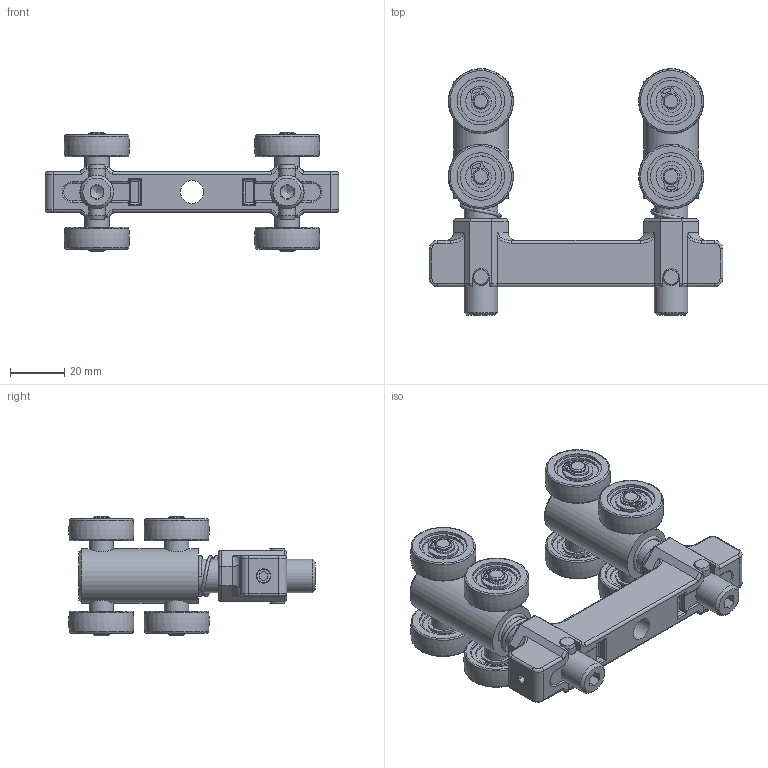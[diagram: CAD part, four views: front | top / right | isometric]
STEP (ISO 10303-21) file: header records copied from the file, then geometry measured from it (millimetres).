
FILE_DESCRIPTION (( 'STEP AP214' ), '1' );
FILE_NAME ('800.019.108.STEP', '2014-11-04T16:45:13', ( '' ), ( '' ), 'SwSTEP 2.0', 'SolidWorks 2012', '' );
FILE_SCHEMA (( 'AUTOMOTIVE_DESIGN' ));
Length unit declared in the file: millimetre
Products named in the file (11): ISO 4027 - M6 x 16-S_ISO 4027 - M6 x 16-S; Circlip DIN 471 - 6 x 0.7_Circlip DIN 471 - 6 x 0.7; 800.019.117; 800.019.116_Default<A macchina>; Parallel Pin ISO 8734 - 6 x 20 - A - St_Parallel Pin ISO 8734 - 6 x 20 - A - St; 800.019.120; 800.019.119; 800.019.121; 800.019.124; 800.019.113; 800.019.108
Assembly tree (45 placements, depth 2):
  800.019.108
    800.019.113
    800.019.124  x2
    800.019.121  x4
    800.019.119  x2
    800.019.120  x8
    Parallel Pin ISO 8734 - 6 x 20 - A - St_Parallel Pin ISO 8734 - 6 x 20 - A - St  x2
    800.019.116_Default<A macchina>  x8
    800.019.117  x8
    Circlip DIN 471 - 6 x 0.7_Circlip DIN 471 - 6 x 0.7  x8
    ISO 4027 - M6 x 16-S_ISO 4027 - M6 x 16-S  x2
Bounding box: 108 x 90.69 x 43.8 mm (x, y, z)
Volume: 88488.2 mm3; surface area: 52548.1 mm2
Topology: 45 solids, 45 shells, 807 faces, 1798 edges, 1139 vertices
Faces by surface type: cylinder 337, plane 328, cone 90, torus 38, bspline 14
Full cylindrical faces by diameter (mm): 5 x4, 5.7 x8, 6 x58, 6.1 x4, 8.5 x1, 9 x8, 11.1 x16, 12.3 x2, 12.5 x2, 15.2 x16, 16 x2, 17.5 x8, 18.5 x8, 19 x16, 20 x2
Entity records: 11346 total; most frequent: CARTESIAN_POINT 3608, DIRECTION 1520, ORIENTED_EDGE 1338, EDGE_CURVE 669, AXIS2_PLACEMENT_3D 584, EDGE_LOOP 462, VERTEX_POINT 453, FACE_OUTER_BOUND 389
